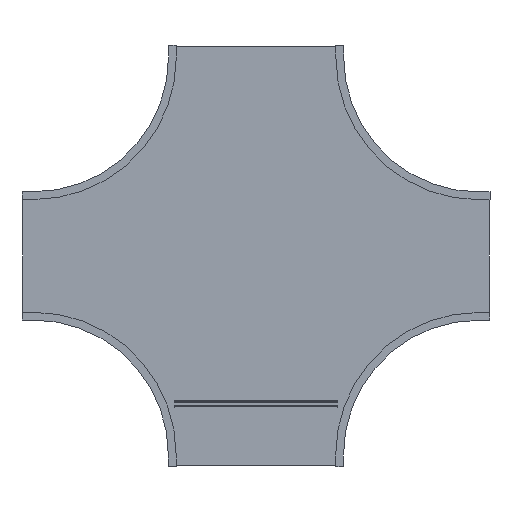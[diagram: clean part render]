
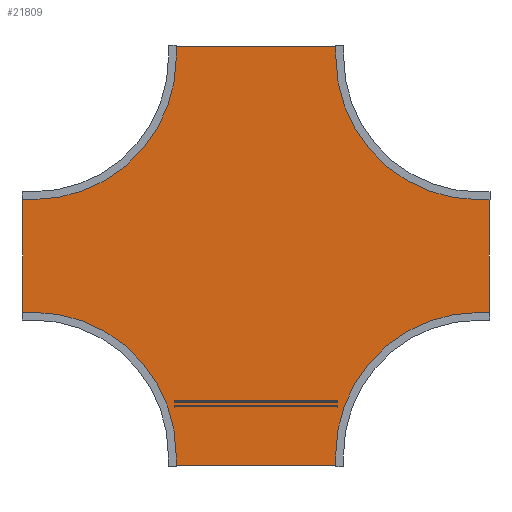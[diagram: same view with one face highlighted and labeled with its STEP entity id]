
A CAD part, front view. The second image highlights one B-rep face of the part: STEP entity #21809.
In plain terms, the highlighted planar face has unit normal (0, -1, 0).
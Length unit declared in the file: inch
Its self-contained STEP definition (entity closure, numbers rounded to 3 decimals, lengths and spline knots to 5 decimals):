
#21506=DIRECTION('',(0.,0.,1.));
#21507=VECTOR('',#21506,29.875);
#21508=CARTESIAN_POINT('',(-59.875,0.,-14.9375));
#21509=LINE('',#21508,#21507);
#21510=DIRECTION('',(1.,0.,0.));
#21511=VECTOR('',#21510,2.785);
#21512=CARTESIAN_POINT('',(-59.875,0.,14.9375));
#21513=LINE('',#21512,#21511);
#21514=CARTESIAN_POINT('',(-57.09,0.,51.09));
#21515=DIRECTION('',(0.,-1.,0.));
#21516=DIRECTION('',(0.,0.,-1.));
#21517=AXIS2_PLACEMENT_3D('',#21514,#21515,#21516);
#21519=DIRECTION('',(0.,0.,1.));
#21520=VECTOR('',#21519,2.785);
#21521=CARTESIAN_POINT('',(-20.9375,0.,51.09));
#21522=LINE('',#21521,#21520);
#21523=DIRECTION('',(1.,0.,0.));
#21524=VECTOR('',#21523,41.875);
#21525=CARTESIAN_POINT('',(-20.9375,0.,53.875));
#21526=LINE('',#21525,#21524);
#21527=DIRECTION('',(0.,0.,-1.));
#21528=VECTOR('',#21527,2.785);
#21529=CARTESIAN_POINT('',(20.9375,0.,53.875));
#21530=LINE('',#21529,#21528);
#21531=CARTESIAN_POINT('',(57.09,0.,51.09));
#21532=DIRECTION('',(0.,-1.,0.));
#21533=DIRECTION('',(-1.,0.,0.));
#21534=AXIS2_PLACEMENT_3D('',#21531,#21532,#21533);
#21536=DIRECTION('',(1.,0.,0.));
#21537=VECTOR('',#21536,2.785);
#21538=CARTESIAN_POINT('',(57.09,0.,14.9375));
#21539=LINE('',#21538,#21537);
#21540=DIRECTION('',(0.,0.,-1.));
#21541=VECTOR('',#21540,29.875);
#21542=CARTESIAN_POINT('',(59.875,0.,14.9375));
#21543=LINE('',#21542,#21541);
#21544=DIRECTION('',(-1.,0.,0.));
#21545=VECTOR('',#21544,2.785);
#21546=CARTESIAN_POINT('',(59.875,0.,-14.9375));
#21547=LINE('',#21546,#21545);
#21548=CARTESIAN_POINT('',(57.09,0.,-51.09));
#21549=DIRECTION('',(0.,-1.,0.));
#21550=DIRECTION('',(0.,0.,1.));
#21551=AXIS2_PLACEMENT_3D('',#21548,#21549,#21550);
#21553=DIRECTION('',(0.,0.,-1.));
#21554=VECTOR('',#21553,2.785);
#21555=CARTESIAN_POINT('',(20.9375,0.,-51.09));
#21556=LINE('',#21555,#21554);
#21557=DIRECTION('',(-1.,0.,0.));
#21558=VECTOR('',#21557,41.875);
#21559=CARTESIAN_POINT('',(20.9375,0.,-53.875));
#21560=LINE('',#21559,#21558);
#21561=DIRECTION('',(0.,0.,1.));
#21562=VECTOR('',#21561,2.785);
#21563=CARTESIAN_POINT('',(-20.9375,0.,-53.875));
#21564=LINE('',#21563,#21562);
#21565=CARTESIAN_POINT('',(-57.09,0.,-51.09));
#21566=DIRECTION('',(0.,-1.,0.));
#21567=DIRECTION('',(1.,0.,0.));
#21568=AXIS2_PLACEMENT_3D('',#21565,#21566,#21567);
#21570=DIRECTION('',(-1.,0.,0.));
#21571=VECTOR('',#21570,2.785);
#21572=CARTESIAN_POINT('',(-57.09,0.,-14.9375));
#21573=LINE('',#21572,#21571);
#21706=CARTESIAN_POINT('',(-59.875,0.,-14.9375));
#21707=CARTESIAN_POINT('',(-59.875,0.,14.9375));
#21708=VERTEX_POINT('',#21706);
#21709=VERTEX_POINT('',#21707);
#21710=CARTESIAN_POINT('',(-57.09,0.,14.9375));
#21711=VERTEX_POINT('',#21710);
#21712=CARTESIAN_POINT('',(-20.9375,0.,51.09));
#21713=VERTEX_POINT('',#21712);
#21714=CARTESIAN_POINT('',(-20.9375,0.,53.875));
#21715=VERTEX_POINT('',#21714);
#21716=CARTESIAN_POINT('',(20.9375,0.,53.875));
#21717=VERTEX_POINT('',#21716);
#21718=CARTESIAN_POINT('',(20.9375,0.,51.09));
#21719=VERTEX_POINT('',#21718);
#21720=CARTESIAN_POINT('',(57.09,0.,14.9375));
#21721=VERTEX_POINT('',#21720);
#21722=CARTESIAN_POINT('',(59.875,0.,14.9375));
#21723=VERTEX_POINT('',#21722);
#21724=CARTESIAN_POINT('',(59.875,0.,-14.9375));
#21725=VERTEX_POINT('',#21724);
#21726=CARTESIAN_POINT('',(57.09,0.,-14.9375));
#21727=VERTEX_POINT('',#21726);
#21728=CARTESIAN_POINT('',(20.9375,0.,-51.09));
#21729=VERTEX_POINT('',#21728);
#21730=CARTESIAN_POINT('',(20.9375,0.,-53.875));
#21731=VERTEX_POINT('',#21730);
#21732=CARTESIAN_POINT('',(-20.9375,0.,-53.875));
#21733=VERTEX_POINT('',#21732);
#21734=CARTESIAN_POINT('',(-20.9375,0.,-51.09));
#21735=VERTEX_POINT('',#21734);
#21736=CARTESIAN_POINT('',(-57.09,0.,-14.9375));
#21737=VERTEX_POINT('',#21736);
#21770=CARTESIAN_POINT('',(0.,0.,0.));
#21771=DIRECTION('',(0.,1.,0.));
#21772=DIRECTION('',(1.,0.,0.));
#21773=AXIS2_PLACEMENT_3D('',#21770,#21771,#21772);
#21774=PLANE('',#21773);
#21776=ORIENTED_EDGE('',*,*,#21775,.T.);
#21778=ORIENTED_EDGE('',*,*,#21777,.T.);
#21780=ORIENTED_EDGE('',*,*,#21779,.T.);
#21782=ORIENTED_EDGE('',*,*,#21781,.T.);
#21784=ORIENTED_EDGE('',*,*,#21783,.T.);
#21786=ORIENTED_EDGE('',*,*,#21785,.T.);
#21788=ORIENTED_EDGE('',*,*,#21787,.T.);
#21790=ORIENTED_EDGE('',*,*,#21789,.T.);
#21792=ORIENTED_EDGE('',*,*,#21791,.T.);
#21794=ORIENTED_EDGE('',*,*,#21793,.T.);
#21796=ORIENTED_EDGE('',*,*,#21795,.T.);
#21798=ORIENTED_EDGE('',*,*,#21797,.T.);
#21800=ORIENTED_EDGE('',*,*,#21799,.T.);
#21802=ORIENTED_EDGE('',*,*,#21801,.T.);
#21804=ORIENTED_EDGE('',*,*,#21803,.T.);
#21806=ORIENTED_EDGE('',*,*,#21805,.T.);
#21807=EDGE_LOOP('',(#21776,#21778,#21780,#21782,#21784,#21786,#21788,#21790,
#21792,#21794,#21796,#21798,#21800,#21802,#21804,#21806));
#21808=FACE_OUTER_BOUND('',#21807,.F.);
#21809=ADVANCED_FACE('',(#21808),#21774,.F.);
#21518=CIRCLE('',#21517,36.1525);
#21535=CIRCLE('',#21534,36.1525);
#21552=CIRCLE('',#21551,36.1525);
#21569=CIRCLE('',#21568,36.1525);
#21775=EDGE_CURVE('',#21708,#21709,#21509,.T.);
#21777=EDGE_CURVE('',#21709,#21711,#21513,.T.);
#21779=EDGE_CURVE('',#21711,#21713,#21518,.T.);
#21781=EDGE_CURVE('',#21713,#21715,#21522,.T.);
#21783=EDGE_CURVE('',#21715,#21717,#21526,.T.);
#21785=EDGE_CURVE('',#21717,#21719,#21530,.T.);
#21787=EDGE_CURVE('',#21719,#21721,#21535,.T.);
#21789=EDGE_CURVE('',#21721,#21723,#21539,.T.);
#21791=EDGE_CURVE('',#21723,#21725,#21543,.T.);
#21793=EDGE_CURVE('',#21725,#21727,#21547,.T.);
#21795=EDGE_CURVE('',#21727,#21729,#21552,.T.);
#21797=EDGE_CURVE('',#21729,#21731,#21556,.T.);
#21799=EDGE_CURVE('',#21731,#21733,#21560,.T.);
#21801=EDGE_CURVE('',#21733,#21735,#21564,.T.);
#21803=EDGE_CURVE('',#21735,#21737,#21569,.T.);
#21805=EDGE_CURVE('',#21737,#21708,#21573,.T.);
